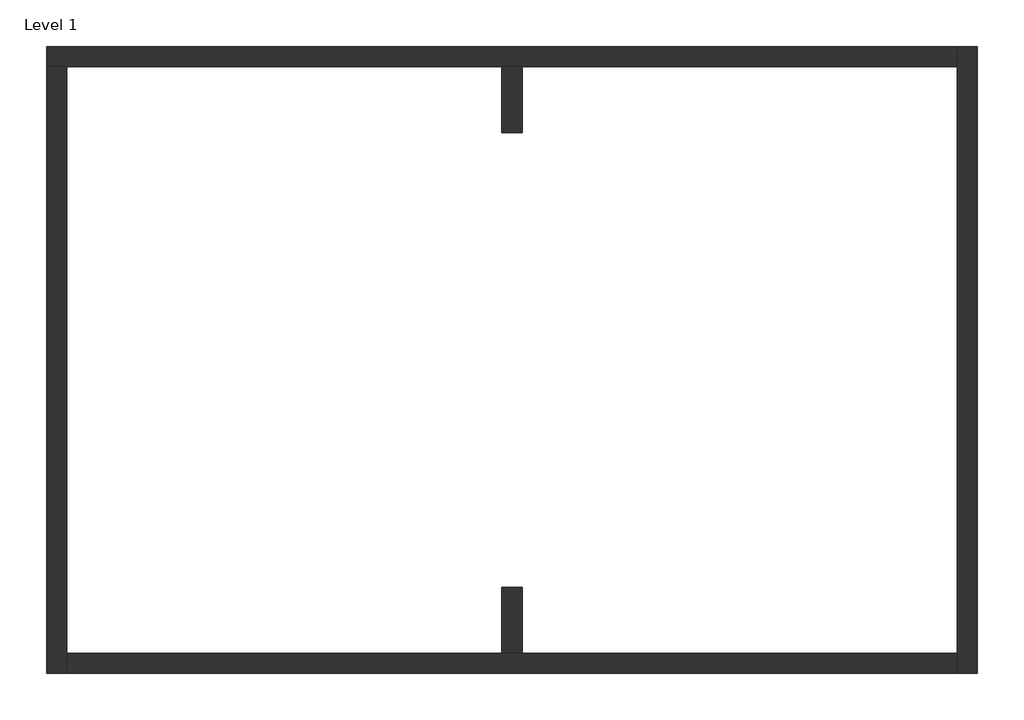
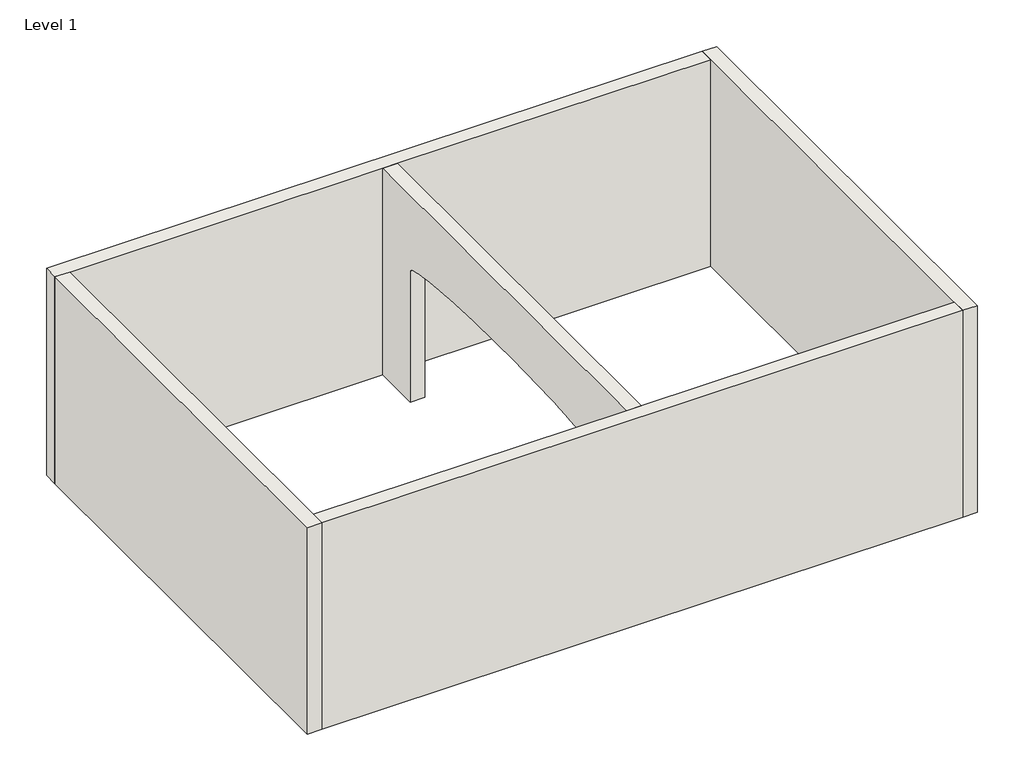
# One storey: 5 walls.
"""IFC4 building model written with IfcOpenShell, lengths in millimetres."""

from ifc_helpers import new_model, si_unit, point, frame, origin, place, context, project, spatial, ellipse_curve, trimmed, faceted_brep, element, save
from ifc_brep_helpers import plane_surface, extruded_surface, advanced_brep

model = new_model("IFC4")

# Units and contexts
model_context = context("Model", 3, world=origin())
ifc_project = project(units=[si_unit("LENGTHUNIT", "METRE", prefix="MILLI")], contexts=[model_context])

# Site, building, storey
site = spatial("IfcSite", under=ifc_project)
building = spatial("IfcBuilding", under=site)
storey = spatial("IfcBuildingStorey", under=building, Name="Level 1", Elevation=0.0)

# Walls
placement = place(None, origin())
element("IfcWall", 1, ObjectType="Generic - 8\"", at=placement, inside=storey, context=model_context, shape_type="Brep", body=[
    faceted_brep([(-13963.3256245, 10124.3149815, 0.0), (-13760.1256245, 10124.3149815, 0.0), (-9391.3256245, 10124.3149815, 0.0), (-9188.1256245, 10124.3149815, 0.0), (-4819.3256245, 10124.3149815, 0.0), (-4819.3256245, 10124.3149815, 3048.0), (-9188.1256245, 10124.3149815, 3048.0), (-9391.3256245, 10124.3149815, 3048.0), (-13760.1256245, 10124.3149815, 3048.0), (-13963.3256245, 10124.3149815, 3048.0), (-13963.3256245, 10327.5149815, 0.0), (-13963.3256245, 10327.5149815, 3048.0), (-4819.3256245, 10327.5149815, 3048.0), (-4819.3256245, 10327.5149815, 0.0)], [[[0, 1, 2, 3, 4, 5, 6, 7, 8, 9]], [[10, 11, 12, 13]], [[4, 3, 2, 1, 0, 10, 13]], [[9, 8, 7, 6, 5, 12, 11]], [[0, 9, 11, 10]], [[5, 4, 13, 12]]]),
])
element("IfcWall", 2, ObjectType="Generic - 8\"", at=placement, inside=storey, context=model_context, shape_type="Brep", body=[
    faceted_brep([(-13760.1256245, 4028.3149815, 0.0), (-13760.1256245, 4231.5149815, 0.0), (-13760.1256245, 10124.3149815, 0.0), (-13760.1256245, 10124.3149815, 3048.0), (-13760.1256245, 4231.5149815, 3048.0), (-13760.1256245, 4028.3149815, 3048.0), (-13963.3256245, 4028.3149815, 0.0), (-13963.3256245, 4028.3149815, 3048.0), (-13963.3256245, 10124.3149815, 3048.0), (-13963.3256245, 10124.3149815, 0.0)], [[[0, 1, 2, 3, 4, 5]], [[6, 7, 8, 9]], [[2, 1, 0, 6, 9]], [[5, 4, 3, 8, 7]], [[0, 5, 7, 6]], [[3, 2, 9, 8]]]),
])
element("IfcWall", 3, ObjectType="Generic - 8\"", at=placement, inside=storey, context=model_context, shape_type="Brep", body=[
    faceted_brep([(-4819.3256245, 4231.5149815, 0.0), (-9188.1256245, 4231.5149815, 0.0), (-9391.3256245, 4231.5149815, 0.0), (-13760.1256245, 4231.5149815, 0.0), (-13760.1256245, 4231.5149815, 3048.0), (-9391.3256245, 4231.5149815, 3048.0), (-9188.1256245, 4231.5149815, 3048.0), (-4819.3256245, 4231.5149815, 3048.0), (-4819.3256245, 4028.3149815, 0.0), (-4819.3256245, 4028.3149815, 3048.0), (-13760.1256245, 4028.3149815, 3048.0), (-13760.1256245, 4028.3149815, 0.0)], [[[0, 1, 2, 3, 4, 5, 6, 7]], [[8, 9, 10, 11]], [[3, 2, 1, 0, 8, 11]], [[7, 6, 5, 4, 10, 9]], [[4, 3, 11, 10]], [[0, 7, 9, 8]]]),
])
element("IfcWall", 4, ObjectType="Generic - 8\"", at=placement, inside=storey, context=model_context, shape_type="Brep", body=[
    faceted_brep([(-4819.3256245, 10327.5149815, 0.0), (-4819.3256245, 10124.3149815, 0.0), (-4819.3256245, 4231.5149815, 0.0), (-4819.3256245, 4028.3149815, 0.0), (-4819.3256245, 4028.3149815, 3048.0), (-4819.3256245, 4231.5149815, 3048.0), (-4819.3256245, 10124.3149815, 3048.0), (-4819.3256245, 10327.5149815, 3048.0), (-4616.1256245, 10327.5149815, 0.0), (-4616.1256245, 10327.5149815, 3048.0), (-4616.1256245, 4028.3149815, 3048.0), (-4616.1256245, 4028.3149815, 0.0)], [[[0, 1, 2, 3, 4, 5, 6, 7]], [[8, 9, 10, 11]], [[3, 2, 1, 0, 8, 11]], [[7, 6, 5, 4, 10, 9]], [[0, 7, 9, 8]], [[4, 3, 11, 10]]]),
])
element("IfcWall", 5, ObjectType="Generic - 8\"", at=placement, inside=storey, context=model_context, shape_type="AdvancedBrep", body=[
    advanced_brep(
    [(-9391.3256245, 4891.9149815, 1930.4), (-9391.3256245, 4891.9149815, 0.0), (-9391.3256245, 4231.5149815, 0.0), (-9391.3256245, 4231.5149815, 3048.0), (-9391.3256245, 10124.3149815, 3048.0), (-9391.3256245, 10124.3149815, 0.0), (-9391.3256245, 9463.9149815, 0.0), (-9391.3256245, 9463.9149815, 1930.4), (-9188.1256245, 4231.5149815, 0.0), (-9188.1256245, 4891.9149815, 0.0), (-9188.1256245, 4891.9149815, 1930.4), (-9188.1256245, 9463.9149815, 1930.4), (-9188.1256245, 9463.9149815, 0.0), (-9188.1256245, 10124.3149815, 0.0), (-9188.1256245, 10124.3149815, 3048.0), (-9188.1256245, 4231.5149815, 3048.0)],
    [
        (0, 1),
        (1, 2),
        (2, 3),
        (3, 4),
        (4, 5),
        (5, 6),
        (6, 7),
        (7, 0, ellipse_curve(frame((-9391.3256245, 7177.9149815, 1930.4), z_axis=(1.0, 0.0, 0.0), x_axis=(0.0, -1.0, 0.0)), 2286.0, 203.2)),
        (8, 9),
        (9, 10),
        (10, 11, ellipse_curve(frame((-9188.1256245, 7177.9149815, 1930.4), z_axis=(-1.0, 0.0, 0.0), x_axis=(0.0, -1.0, 0.0)), 2286.0, 203.2)),
        (11, 12),
        (12, 13),
        (13, 14),
        (14, 15),
        (15, 8),
        (1, 9),
        (8, 2),
        (5, 13),
        (12, 6),
        (3, 15),
        (14, 4),
        (10, 0),
        (7, 11),
    ],
    [
        plane_surface(frame((-9391.3256245, 10225.9149815, 0.0), z_axis=(-1.0, 0.0, 0.0), x_axis=(0.0, -1.0, 0.0))),
        plane_surface(frame((-9188.1256245, 10225.9149815, 0.0), z_axis=(1.0, 0.0, 0.0), x_axis=(0.0, 1.0, 0.0))),
        plane_surface(frame((-9391.3256245, 10225.9149815, 0.0), z_axis=(0.0, 0.0, -1.0), x_axis=(1.0, 0.0, 0.0))),
        plane_surface(frame((-9391.3256245, 4129.9149815, 3048.0), z_axis=(0.0, 0.0, 1.0), x_axis=(1.0, 0.0, 0.0))),
        plane_surface(frame((-13861.7256245, 10124.3149815, 0.0), z_axis=(0.0, 1.0, 0.0), x_axis=(1.0, 0.0, 0.0))),
        plane_surface(frame((4426.2743755, 4231.5149815, 0.0), z_axis=(0.0, -1.0, 0.0), x_axis=(-1.0, 0.0, 0.0))),
        extruded_surface(trimmed(ellipse_curve(frame((-9594.5256245, 7177.9149815, 1930.4), z_axis=(-1.0, 0.0, 0.0), x_axis=(0.0, -1.0, 0.0)), 2286.0, 203.2), [point((-9594.5256245, 4891.9149815, 1930.4))], [point((-9594.5256245, 9463.9149815, 1930.4))], True, "CARTESIAN"), (203.20000000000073, 0.0, 0.0), 203.20000000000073),
        plane_surface(frame((-9188.1256245, 9463.9149815, 1930.4), z_axis=(0.0, -1.0, 0.0), x_axis=(-1.0, 0.0, 0.0))),
        plane_surface(frame((-9188.1256245, 4891.9149815, 0.0), z_axis=(0.0, 1.0, 0.0), x_axis=(-1.0, 0.0, 0.0))),
    ],
    [
        (0, [[1, 2, 3, 4, 5, 6, 7, 8]]),
        (1, [[9, 10, 11, 12, 13, 14, 15, 16]]),
        (2, [[-2, 17, -9, 18]]),
        (2, [[-6, 19, -13, 20]]),
        (3, [[-4, 21, -15, 22]]),
        (4, [[-5, -22, -14, -19]]),
        (5, [[-3, -18, -16, -21]]),
        (6, [[-11, 23, -8, 24]]),
        (7, [[-12, -24, -7, -20]]),
        (8, [[-10, -17, -1, -23]]),
    ],
),
])

save(model, "model.ifc")
